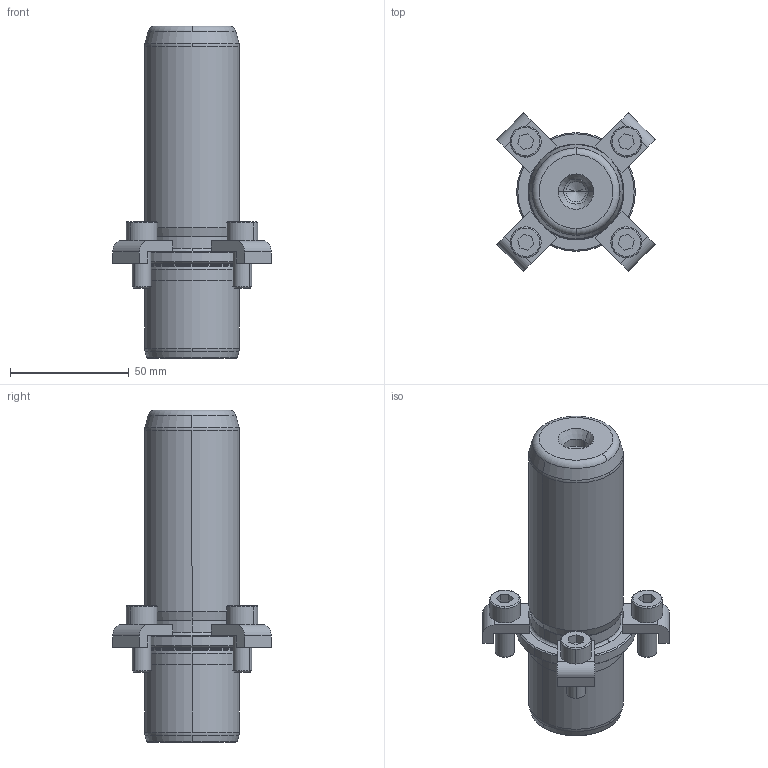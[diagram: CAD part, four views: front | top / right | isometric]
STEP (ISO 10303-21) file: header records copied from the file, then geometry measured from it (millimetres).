
FILE_DESCRIPTION((''),'2;1');
FILE_NAME('P21_040_100.stp','2008-12-23T11:23:34',(''),(''),'Mechanical Desktop 2009','Mechanical Desktop 2009',', , ');
FILE_SCHEMA(('CONFIG_CONTROL_DESIGN'));
Length unit declared in the file: millimetre
Products named in the file (2): Product; blmdl1
Assembly tree (1 placements, depth 2):
  Product
    blmdl1
Bounding box: 66.82 x 66.82 x 140 mm (x, y, z)
Volume: 186061.7 mm3; surface area: 31860.1 mm2
Topology: 9 solids, 9 shells, 203 faces, 501 edges, 325 vertices
Faces by surface type: plane 81, cylinder 56, cone 34, torus 16, bspline 16
Entity records: 6819 total; most frequent: CARTESIAN_POINT 1731, DIRECTION 1126, ORIENTED_EDGE 994, EDGE_CURVE 497, AXIS2_PLACEMENT_3D 440, VERTEX_POINT 325, CIRCLE 251, VECTOR 246
